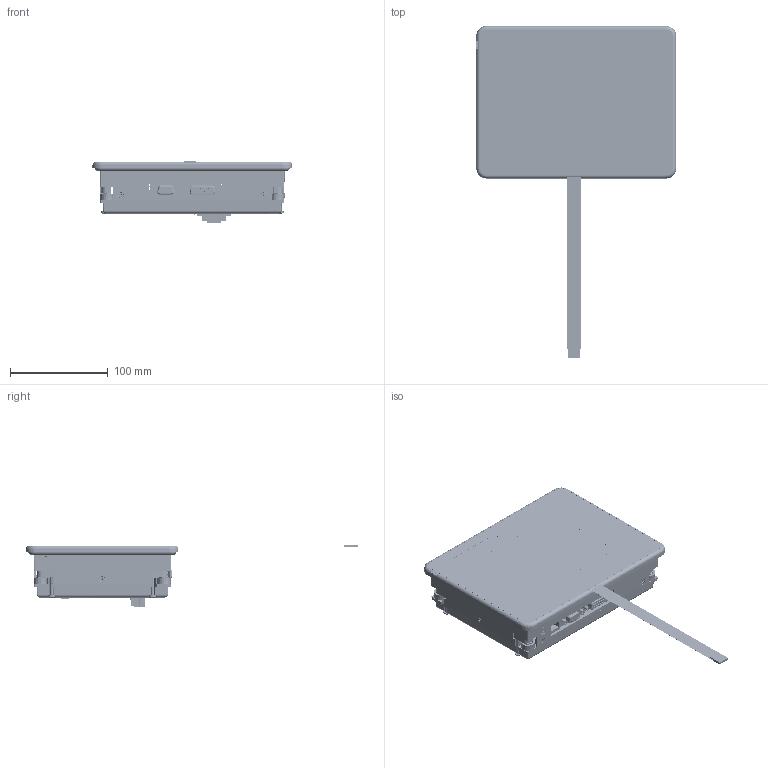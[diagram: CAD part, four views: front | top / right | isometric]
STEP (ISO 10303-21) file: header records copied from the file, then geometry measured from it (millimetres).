
FILE_DESCRIPTION (( 'STEP AP214' ), '1' );
FILE_NAME ('EZ12_6INCH.STEP', '2018-06-04T22:16:06', ( '' ), ( '' ), 'SwSTEP 2.0', 'SolidWorks 2018', '' );
FILE_SCHEMA (( 'AUTOMOTIVE_DESIGN' ));
Length unit declared in the file: millimetre
Products named in the file (42): MLB-06EZ3-001; MSC-08-32-STUD_92620A408; _S__4; MLB-XEZ12-001; 50402; 34210; MSC-M3.00-S12PP; MFP-06EZ3-BEZ; ECM-XXEZ3-002; PCA-EZPE-030; SD CARD MICRO; TS; FPD-PGI6P-005; 28428 Half AA; SHELL; 45681M; ZLE-C155G-EKT; USB1030; ECM-RJ-45-FLED; TS_1; MCO-XXEZ9-003; TL_1; EPM-50PIN-002; 49035_CR-PHMS 0.138-32x0.375x0.375-N; dfk-mstb_2.5-3-gf-5.08; 36165; PCA-EZPE3-010T new; TSN-PGI6P-007; BAT-PGIXP-001; EZ12_6INCH; MBK-EZ3XX-DIN; EEC-04PIN-USB; MBP-6EZ12-BACK new; 48414; TFM-PGIXP-001; H; MCO-XXEZ9-001; MEM2051; MCO-XXEZ9-002; ECM-XXEZ3-003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
Assembly tree (71 placements, depth 4):
  TL_1
  EZ12_6INCH
    MFP-06EZ3-BEZ
    PCA-EZPE3-010T
      PCA-EZPE-030
      USB1030
        H
        SHELL
        TS
        TS_1
        _S__4
      MEM2051
      ECM-RJ-45-FLED
      EEC-04PIN-USB
      34210
      36165
      45681M
      TFM-PGIXP-001
      EPM-50PIN-002
      ZLE-C155G-EKT
    MBK-EZ3XX-DIN  x4
    MSC-08-32-STUD_92620A408  x4
    50402  x4
    49035_CR-PHMS 0.138-32x0.375x0.375-N  x4
    FPD-PGI6P-005
    TSN-PGI6P-007
    48414  x6
    MLB-06EZ3-001
    28428 Half AA
    ECM-XXEZ3-002
      dfk-mstb_2.5-3-gf-5.08
    BAT-PGIXP-001  x2
    MSC-M3.00-S12PP  x2
    MCO-XXEZ9-001
    MCO-XXEZ9-002
    MCO-XXEZ9-003
    MLB-XEZ12-001
    SD CARD MICRO
    ECM-XXEZ3-003
    MGK-6EZ12-002
    PCA-EZPE3-010T new
      PCA-EZPE-030
      USB1030
        H
        SHELL
        TS
        TS_1
        _S__4
      MEM2051
      ECM-RJ-45-FLED
      EEC-04PIN-USB
      34210
      36165
      45681M
      TFM-PGIXP-001
      EPM-50PIN-002
      ZLE-C155G-EKT  x2
    MBP-6EZ12-BACK new
Bounding box: 204.92 x 339.81 x 63.93 mm (x, y, z)
Volume: 651376.2 mm3; surface area: 514396.6 mm2
Topology: 80 solids, 128 shells, 18893 faces, 49852 edges, 31754 vertices
Faces by surface type: plane 12384, cylinder 4459, bspline 1289, cone 459, torus 244, sphere 58
Entity records: 536978 total; most frequent: CARTESIAN_POINT 185723, ORIENTED_EDGE 73454, DIRECTION 58938, EDGE_CURVE 36782, VECTOR 24660, LINE 24660, VERTEX_POINT 23454, AXIS2_PLACEMENT_3D 17139
